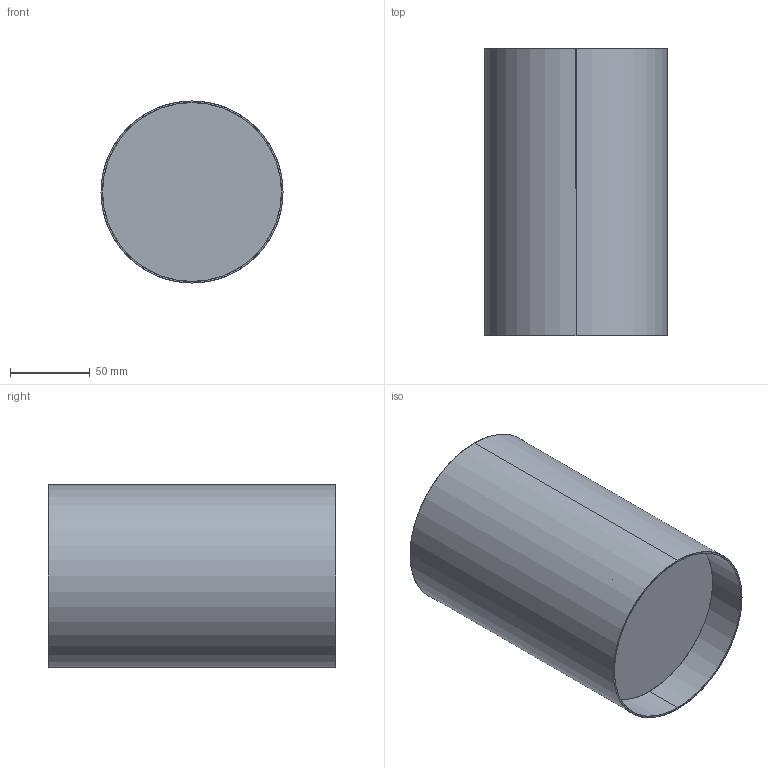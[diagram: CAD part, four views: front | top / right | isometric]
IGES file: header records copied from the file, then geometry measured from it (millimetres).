
Start section: SolidWorks IGES file using analytic representation for surfaces
Global section: file name: F:\GABRYSIA\MODELE 3D\BIT-M-9481-9483-9485-WWW\BIT-M-9481-9483-9485.IGS; native system: SolidWorks 2017; preprocessor: SolidWorks 2017; author: Togambi; date: 201130.124053; units: millimetre
Bounding box: 114 x 180 x 114 mm (x, y, z)
Surface area: 201094.3 mm2 (no closed solid volume)
Topology: 0 solids, 0 shells, 34 faces, 1000 edges, 992 vertices
Faces by surface type: revolution 18, bspline 16
